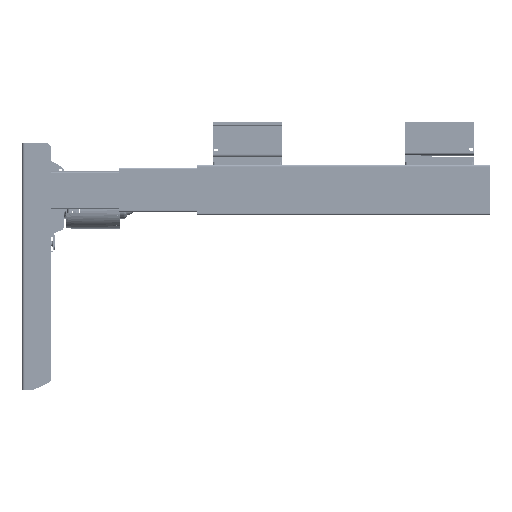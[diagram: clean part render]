
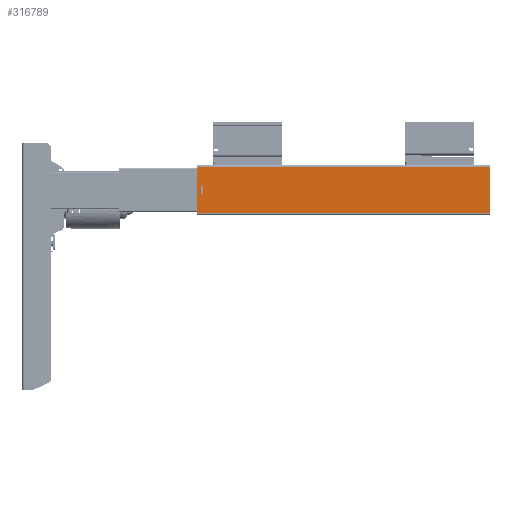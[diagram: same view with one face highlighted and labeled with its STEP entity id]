
A CAD part, left-side view. The second image highlights one B-rep face of the part: STEP entity #316789.
In plain terms, the highlighted planar face has unit normal (-1, 0, 0).
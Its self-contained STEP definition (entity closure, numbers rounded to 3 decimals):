
#2213 = DIRECTION ( 'NONE',  ( 0., -1., 0. ) ) ;
#10753 = AXIS2_PLACEMENT_3D ( 'NONE', #101009, #55928, #28645 ) ;
#14758 = VECTOR ( 'NONE', #316567, 1000. ) ;
#17931 = ORIENTED_EDGE ( 'NONE', *, *, #147940, .T. ) ;
#19550 = EDGE_CURVE ( 'NONE', #307055, #123546, #156600, .T. ) ;
#22899 = DIRECTION ( 'NONE',  ( 0., -1., 0. ) ) ;
#28645 = DIRECTION ( 'NONE',  ( 0., 1., 0. ) ) ;
#29419 = LINE ( 'NONE', #198176, #294931 ) ;
#34811 = CARTESIAN_POINT ( 'NONE',  ( -30., 37., 0. ) ) ;
#41004 = EDGE_LOOP ( 'NONE', ( #99317, #282999, #116088, #17931 ) ) ;
#55928 = DIRECTION ( 'NONE',  ( 1., 0., 0. ) ) ;
#59993 = VECTOR ( 'NONE', #118072, 1000. ) ;
#64699 = EDGE_CURVE ( 'NONE', #177518, #294589, #295228, .T. ) ;
#76714 = CARTESIAN_POINT ( 'NONE',  ( -30., -6., 6. ) ) ;
#78818 = VECTOR ( 'NONE', #230433, 1000. ) ;
#97609 = CARTESIAN_POINT ( 'NONE',  ( -30., -6., 10. ) ) ;
#99317 = ORIENTED_EDGE ( 'NONE', *, *, #264790, .T. ) ;
#101009 = CARTESIAN_POINT ( 'NONE',  ( -30., 37., 465. ) ) ;
#105727 = FACE_BOUND ( 'NONE', #41004, .T. ) ;
#105897 = CARTESIAN_POINT ( 'NONE',  ( -30., 37., 465. ) ) ;
#108544 = ORIENTED_EDGE ( 'NONE', *, *, #274920, .F. ) ;
#114090 = CARTESIAN_POINT ( 'NONE',  ( -30., 6., 6. ) ) ;
#116088 = ORIENTED_EDGE ( 'NONE', *, *, #64699, .T. ) ;
#117391 = VECTOR ( 'NONE', #22899, 1000. ) ;
#118072 = DIRECTION ( 'NONE',  ( 0., 0., -1. ) ) ;
#119294 = CARTESIAN_POINT ( 'NONE',  ( -30., 37., 465. ) ) ;
#121002 = VECTOR ( 'NONE', #227614, 1000. ) ;
#122480 = VECTOR ( 'NONE', #218080, 1000. ) ;
#123231 = EDGE_LOOP ( 'NONE', ( #243860, #108544, #254906, #218459 ) ) ;
#123546 = VERTEX_POINT ( 'NONE', #293458 ) ;
#124996 = CARTESIAN_POINT ( 'NONE',  ( -30., -37., 465. ) ) ;
#134581 = EDGE_CURVE ( 'NONE', #267979, #177518, #29419, .T. ) ;
#141249 = LINE ( 'NONE', #194165, #194556 ) ;
#146783 = EDGE_CURVE ( 'NONE', #170310, #307055, #266828, .T. ) ;
#147940 = EDGE_CURVE ( 'NONE', #294589, #232826, #141249, .T. ) ;
#156600 = LINE ( 'NONE', #182275, #78818 ) ;
#156980 = LINE ( 'NONE', #206675, #121002 ) ;
#170310 = VERTEX_POINT ( 'NONE', #105897 ) ;
#177518 = VERTEX_POINT ( 'NONE', #298471 ) ;
#182275 = CARTESIAN_POINT ( 'NONE',  ( -30., 37., 0. ) ) ;
#194165 = CARTESIAN_POINT ( 'NONE',  ( -30., 6., 6. ) ) ;
#194556 = VECTOR ( 'NONE', #239219, 1000. ) ;
#195894 = EDGE_CURVE ( 'NONE', #170310, #210059, #264016, .T. ) ;
#198176 = CARTESIAN_POINT ( 'NONE',  ( -30., 6., 10. ) ) ;
#206675 = CARTESIAN_POINT ( 'NONE',  ( -30., 6., 10. ) ) ;
#210059 = VERTEX_POINT ( 'NONE', #124996 ) ;
#218080 = DIRECTION ( 'NONE',  ( 0., 0., -1. ) ) ;
#218459 = ORIENTED_EDGE ( 'NONE', *, *, #146783, .T. ) ;
#218540 = CARTESIAN_POINT ( 'NONE',  ( -30., 37., 465. ) ) ;
#226185 = PLANE ( 'NONE',  #10753 ) ;
#227614 = DIRECTION ( 'NONE',  ( 0., 0., 1. ) ) ;
#229374 = FACE_OUTER_BOUND ( 'NONE', #123231, .T. ) ;
#230433 = DIRECTION ( 'NONE',  ( 0., -1., 0. ) ) ;
#232826 = VERTEX_POINT ( 'NONE', #114090 ) ;
#239219 = DIRECTION ( 'NONE',  ( 0., 1., 0. ) ) ;
#240207 = LINE ( 'NONE', #265915, #59993 ) ;
#243860 = ORIENTED_EDGE ( 'NONE', *, *, #19550, .T. ) ;
#254906 = ORIENTED_EDGE ( 'NONE', *, *, #195894, .F. ) ;
#264016 = LINE ( 'NONE', #119294, #117391 ) ;
#264790 = EDGE_CURVE ( 'NONE', #232826, #267979, #156980, .T. ) ;
#265915 = CARTESIAN_POINT ( 'NONE',  ( -30., -37., 465. ) ) ;
#266828 = LINE ( 'NONE', #218540, #14758 ) ;
#267979 = VERTEX_POINT ( 'NONE', #284448 ) ;
#274920 = EDGE_CURVE ( 'NONE', #210059, #123546, #240207, .T. ) ;
#282999 = ORIENTED_EDGE ( 'NONE', *, *, #134581, .T. ) ;
#284448 = CARTESIAN_POINT ( 'NONE',  ( -30., 6., 10. ) ) ;
#293458 = CARTESIAN_POINT ( 'NONE',  ( -30., -37., 0. ) ) ;
#294589 = VERTEX_POINT ( 'NONE', #76714 ) ;
#294931 = VECTOR ( 'NONE', #2213, 1000. ) ;
#295228 = LINE ( 'NONE', #97609, #122480 ) ;
#298471 = CARTESIAN_POINT ( 'NONE',  ( -30., -6., 10. ) ) ;
#307055 = VERTEX_POINT ( 'NONE', #34811 ) ;
#316567 = DIRECTION ( 'NONE',  ( 0., 0., -1. ) ) ;
#316789 = ADVANCED_FACE ( 'NONE', ( #105727, #229374 ), #226185, .F. ) ;
